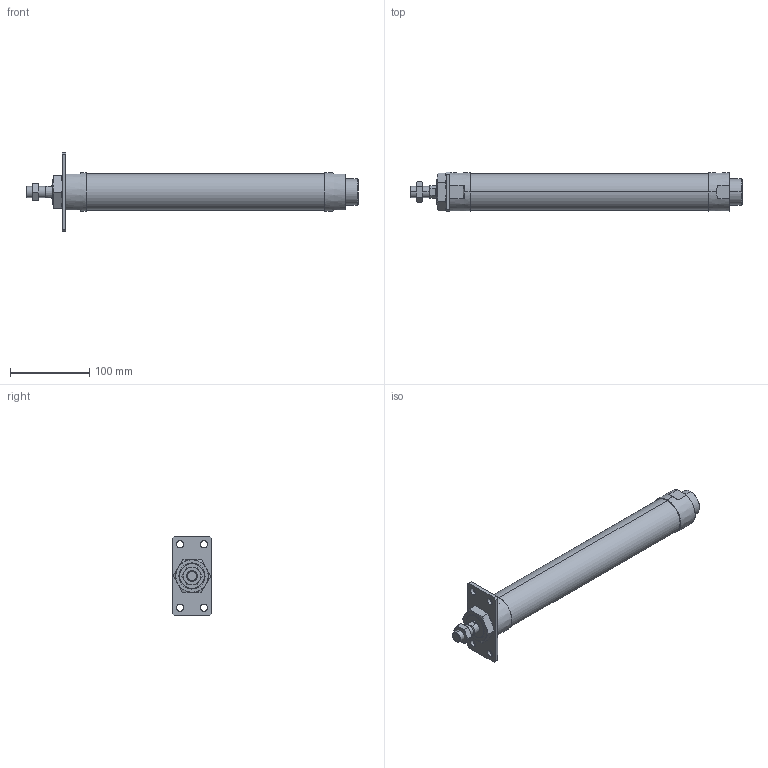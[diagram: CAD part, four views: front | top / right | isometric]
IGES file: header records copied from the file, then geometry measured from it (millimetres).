
Start section: SolidWorks IGES file using analytic representation for surfaces
Global section: file name: C:\Users\Toshiba\Desktop\J#2-40-250-A.IGS; native system: SolidWorks 2014; preprocessor: SolidWorks 2014; author: Toshiba; date: 160308.160705; units: millimetre
Bounding box: 419 x 50 x 100 mm (x, y, z)
Surface area: 76619 mm2 (no closed solid volume)
Topology: 0 solids, 0 shells, 114 faces, 2318 edges, 2314 vertices
Faces by surface type: bspline 67, revolution 47
